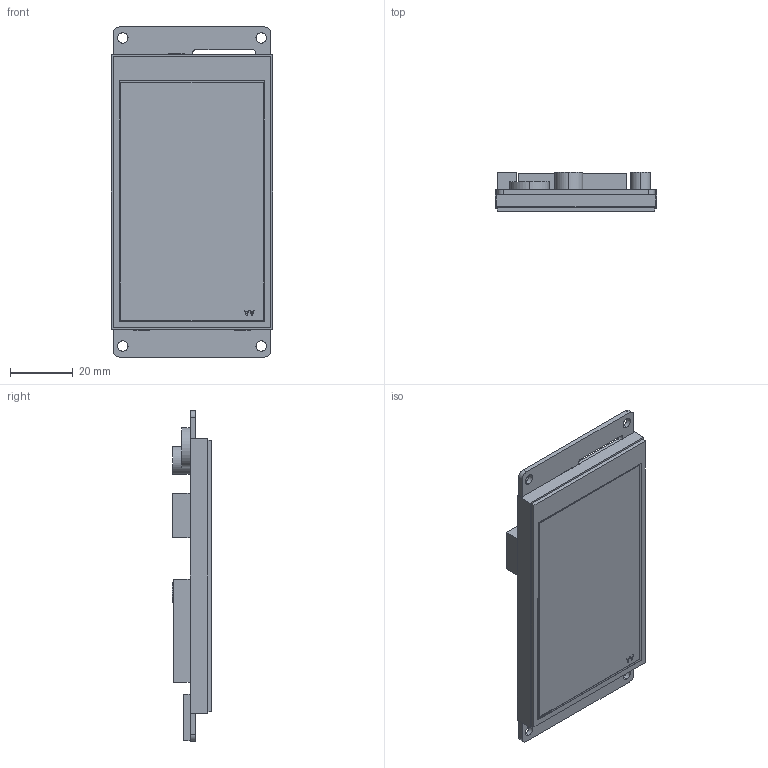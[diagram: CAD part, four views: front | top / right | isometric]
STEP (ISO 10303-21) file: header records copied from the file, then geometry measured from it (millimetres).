
FILE_DESCRIPTION((''),'2;1');
FILE_NAME('DMG80480K035-03WTC_ASM','2022-02-22T',('Administrator'),(''),'PRO/ENGINEER BY PARAMETRIC TECHNOLOGY CORPORATION, 2014320','PRO/ENGINEER BY PARAMETRIC TECHNOLOGY CORPORATION, 2014320','');
FILE_SCHEMA(('CONFIG_CONTROL_DESIGN','SHAPE_APPEARANCE_LAYERS_GROUPS'));
Length unit declared in the file: millimetre
Products named in the file (5): TK035020; LI48800T035BA3004; PCB; YF03508; DMG80480K035-03WTC_ASM
Assembly tree (4 placements, depth 2):
  DMG80480K035-03WTC_ASM
    TK035020
    LI48800T035BA3004
    PCB
    YF03508
Bounding box: 51.26 x 12.64 x 105 mm (x, y, z)
Volume: 31024.3 mm3; surface area: 35480.4 mm2
Topology: 4 solids, 4 shells, 161 faces, 408 edges, 272 vertices
Faces by surface type: plane 139, cylinder 22
Entity records: 5072 total; most frequent: CARTESIAN_POINT 850, ORIENTED_EDGE 816, DIRECTION 792, EDGE_CURVE 408, VECTOR 364, LINE 364, VERTEX_POINT 272, AXIS2_PLACEMENT_3D 214
